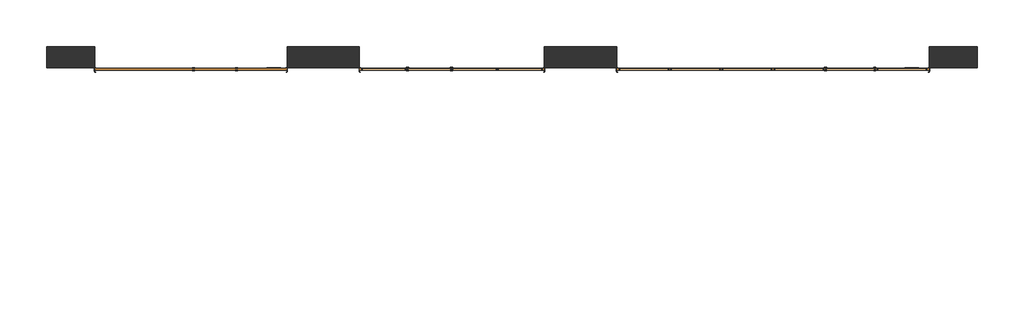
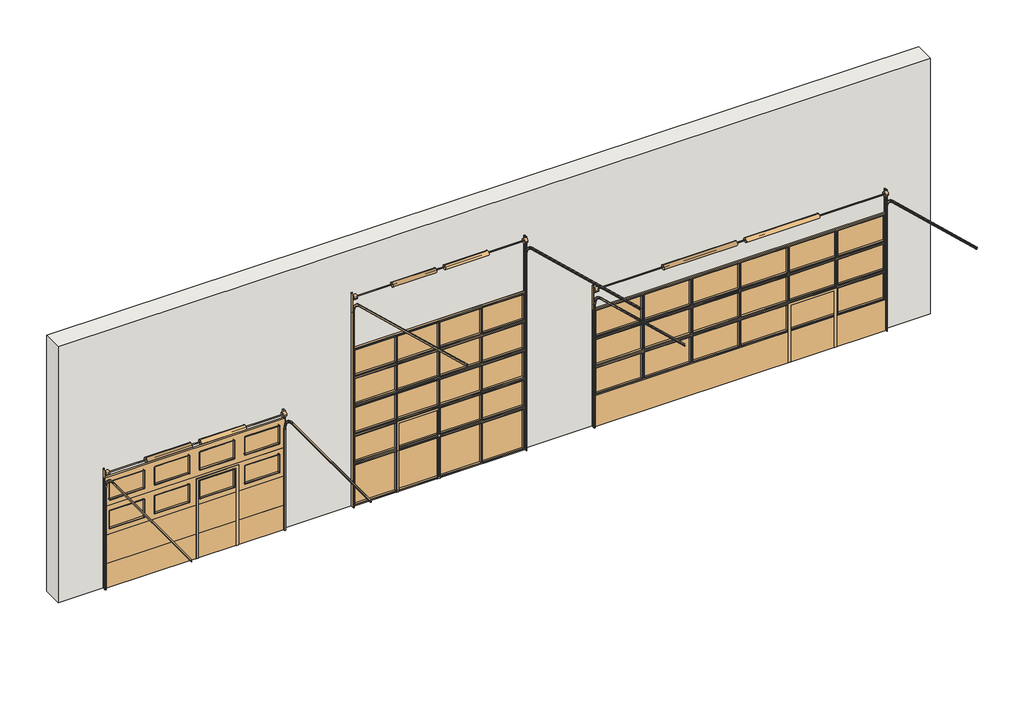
# One storey: 3 doors, 1 wall.
"""IFC4 building model written with IfcOpenShell, lengths in millimetres."""

from ifc_helpers import new_model, si_unit, frame, origin, place, context, project, spatial, polyline, outline, extrude, transform, mapped, element, save
from components import door_d3f973e1, door_389f7659, door_205334c5, door_eaf78109, door_9133259a, door_15ad7d81

model = new_model("IFC4")

# Units and contexts
model_context = context("Model", 3, world=origin())
ifc_project = project(units=[si_unit("LENGTHUNIT", "METRE", prefix="MILLI")], contexts=[model_context])

# Site, building, storey
site = spatial("IfcSite", under=ifc_project)
building = spatial("IfcBuilding", under=site)
storey = spatial("IfcBuildingStorey", under=building, Name="Podlaží 1", Elevation=0.0)

# Doors
placement = place(None, origin())
door_shape = door_d3f973e1(model_context)
element("IfcDoor", 1, ObjectType="Vrata Nassau 9000M : Vrata Nassau 9000M", at=placement, inside=storey, context=model_context, shape_type="MappedRepresentation", body=[
    mapped(door_shape, transform((6020.3524996, 654.1677009, 0.0), x_axis=(1.0, 0.0, 0.0), y_axis=(0.0, 1.0, 0.0), z_axis=(0.0, 0.0, 1.0))),
])
door_2_shape = door_389f7659(model_context)
door_3_shape = door_205334c5(model_context)
element("IfcDoor", 2, ObjectType="Vrata Nassau 9000G : Vrata Nassau 9000G", at=placement, inside=storey, context=model_context, shape_type="MappedRepresentation", body=[
    mapped(door_2_shape, transform((-654.6475004, 654.1677009, 0.0), x_axis=(-1.0, 0.0, 0.0), y_axis=(0.0, -1.0, 0.0), z_axis=(0.0, 0.0, 1.0))),
    mapped(door_3_shape, transform((-654.6475004, 654.1677009, 0.0), x_axis=(-1.0, 0.0, 0.0), y_axis=(0.0, -1.0, 0.0), z_axis=(0.0, 0.0, 1.0))),
])
door_4_shape = door_eaf78109(model_context)
door_5_shape = door_9133259a(model_context)
door_6_shape = door_15ad7d81(model_context)
element("IfcDoor", 3, ObjectType="Vrata Nassau 9000F : Vrata Nassau 9000F", at=placement, inside=storey, context=model_context, shape_type="MappedRepresentation", body=[
    mapped(door_4_shape, transform((-6079.6475004, 654.1677009, 0.0), x_axis=(1.0, 0.0, 0.0), y_axis=(0.0, 1.0, 0.0), z_axis=(0.0, 0.0, 1.0))),
    mapped(door_5_shape, transform((-6079.6475004, 654.1677009, 0.0), x_axis=(1.0, 0.0, 0.0), y_axis=(0.0, 1.0, 0.0), z_axis=(0.0, 0.0, 1.0))),
    mapped(door_6_shape, transform((-6079.6475004, 654.1677009, 0.0), x_axis=(1.0, 0.0, 0.0), y_axis=(0.0, 1.0, 0.0), z_axis=(0.0, 0.0, 1.0))),
])

# Wall
element("IfcWall", 4, ObjectType="BS_PTH300+100TI", at=placement, inside=storey, context=model_context, shape_type="SweptSolid", body=[
    extrude(outline(polyline([(0.0, 10270.3524996), (6000.0, 10270.3524996), (6000.0, -9079.6475004), (0.0, -9079.6475004), (0.0, -8079.6475004), (2600.0, -8079.6475004), (2600.0, -4079.6475004), (0.0, -4079.6475004), (0.0, -2579.6475004), (3700.0, -2579.6475004), (3700.0, 1270.3524996), (0.0, 1270.3524996), (0.0, 2770.3524996), (2749.0, 2770.3524996), (2749.0, 9270.3524996), (0.0, 9270.3524996), (0.0, 10270.3524996)])), frame((0.0, 431.6677009, 0.0), z_axis=(0.0, 1.0, 0.0), x_axis=(0.0, 0.0, 1.0)), (0.0, 0.0, 1.0), 445.0),
])

save(model, "model.ifc")
